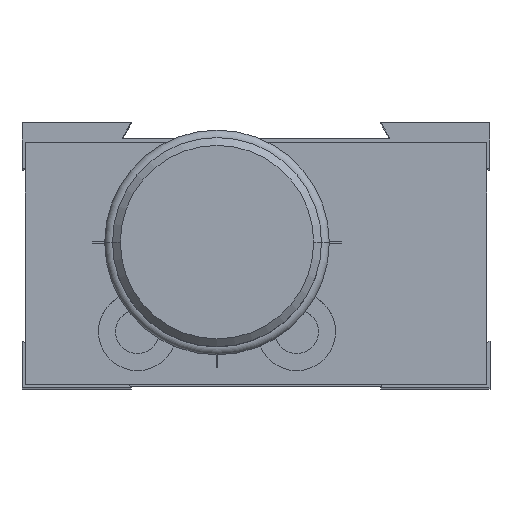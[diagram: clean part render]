
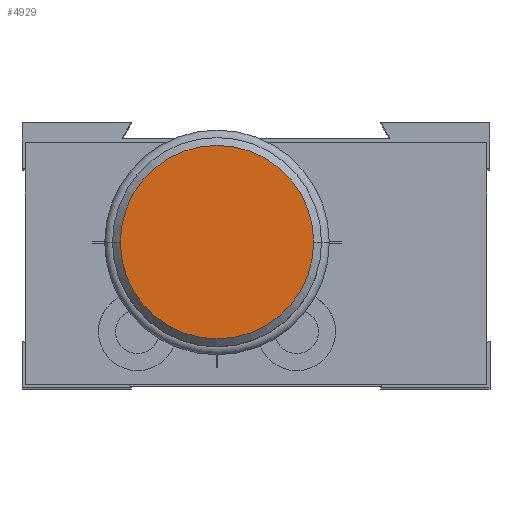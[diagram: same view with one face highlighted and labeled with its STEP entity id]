
A CAD part, top view. The second image highlights one B-rep face of the part: STEP entity #4929.
In plain terms, the highlighted planar face has unit normal (0, 0, 1).
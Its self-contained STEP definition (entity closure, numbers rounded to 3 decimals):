
#217 = EDGE_CURVE ( 'NONE', #218, #223, #2113, .T. ) ;
#218 = VERTEX_POINT ( 'NONE', #2108 ) ;
#223 = VERTEX_POINT ( 'NONE', #2102 ) ;
#2102 = CARTESIAN_POINT ( 'NONE',  ( -8.7, 9.3, 51. ) ) ;
#2108 = CARTESIAN_POINT ( 'NONE',  ( 3.7, 9.3, 51. ) ) ;
#2109 = DIRECTION ( 'NONE',  ( 1., 0., 0. ) ) ;
#2110 = DIRECTION ( 'NONE',  ( 0., 0., 1. ) ) ;
#2111 = CARTESIAN_POINT ( 'NONE',  ( -2.5, 9.3, 51. ) ) ;
#2112 = AXIS2_PLACEMENT_3D ( 'NONE', #2111, #2110, #2109 ) ;
#2113 = CIRCLE ( 'NONE', #2112, 6.2 ) ;
#4462 = DIRECTION ( 'NONE',  ( 1., 0., 0. ) ) ;
#4463 = DIRECTION ( 'NONE',  ( 0., 0., 1. ) ) ;
#4464 = CARTESIAN_POINT ( 'NONE',  ( -2.5, 9.3, 51. ) ) ;
#4465 = AXIS2_PLACEMENT_3D ( 'NONE', #4464, #4463, #4462 ) ;
#4466 = PLANE ( 'NONE',  #4465 ) ;
#4467 = FACE_OUTER_BOUND ( 'NONE', #4926, .T. ) ;
#4581 = DIRECTION ( 'NONE',  ( 1., 0., 0. ) ) ;
#4582 = DIRECTION ( 'NONE',  ( 0., 0., 1. ) ) ;
#4583 = CARTESIAN_POINT ( 'NONE',  ( -2.5, 9.3, 51. ) ) ;
#4584 = AXIS2_PLACEMENT_3D ( 'NONE', #4583, #4582, #4581 ) ;
#4585 = CIRCLE ( 'NONE', #4584, 6.2 ) ;
#4926 = EDGE_LOOP ( 'NONE', ( #4930, #5009 ) ) ;
#4929 = ADVANCED_FACE ( 'NONE', ( #4467 ), #4466, .T. ) ;
#4930 = ORIENTED_EDGE ( 'NONE', *, *, #5016, .T. ) ;
#5009 = ORIENTED_EDGE ( 'NONE', *, *, #217, .T. ) ;
#5016 = EDGE_CURVE ( 'NONE', #223, #218, #4585, .T. ) ;
